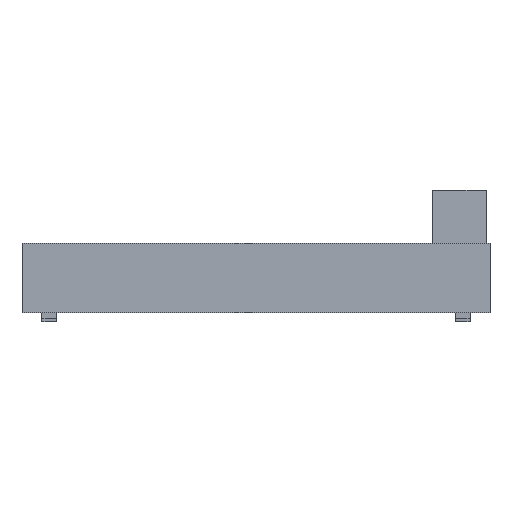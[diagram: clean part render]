
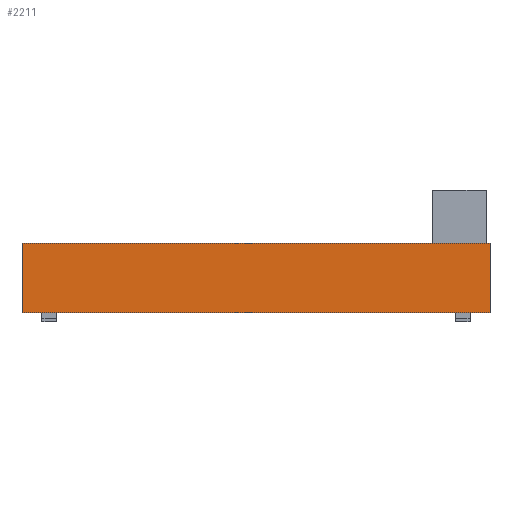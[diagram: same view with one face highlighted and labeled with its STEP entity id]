
A CAD part, front view. The second image highlights one B-rep face of the part: STEP entity #2211.
In plain terms, the highlighted planar face has unit normal (0, -1, 0).
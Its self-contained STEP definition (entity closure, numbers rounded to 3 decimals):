
#32 = PLANE('',#33);
#33 = AXIS2_PLACEMENT_3D('',#34,#35,#36);
#34 = CARTESIAN_POINT('',(20.15,-103.,201.));
#35 = DIRECTION('',(0.,0.,1.));
#36 = DIRECTION('',(1.,0.,0.));
#57 = VERTEX_POINT('',#58);
#58 = CARTESIAN_POINT('',(20.15,-103.,201.));
#72 = PLANE('',#73);
#73 = AXIS2_PLACEMENT_3D('',#74,#75,#76);
#74 = CARTESIAN_POINT('',(20.15,0.,197.249));
#75 = DIRECTION('',(-1.,-0.,-0.));
#76 = DIRECTION('',(0.,0.,-1.));
#84 = EDGE_CURVE('',#57,#85,#87,.T.);
#85 = VERTEX_POINT('',#86);
#86 = CARTESIAN_POINT('',(209.,-103.,201.));
#87 = SURFACE_CURVE('',#88,(#92,#99),.PCURVE_S1.);
#88 = LINE('',#89,#90);
#89 = CARTESIAN_POINT('',(20.15,-103.,201.));
#90 = VECTOR('',#91,1.);
#91 = DIRECTION('',(1.,0.,0.));
#92 = PCURVE('',#32,#93);
#93 = DEFINITIONAL_REPRESENTATION('',(#94),#98);
#94 = LINE('',#95,#96);
#95 = CARTESIAN_POINT('',(0.,0.));
#96 = VECTOR('',#97,1.);
#97 = DIRECTION('',(1.,0.));
#98 = ( GEOMETRIC_REPRESENTATION_CONTEXT(2) 
PARAMETRIC_REPRESENTATION_CONTEXT() REPRESENTATION_CONTEXT('2D SPACE',''
  ) );
#99 = PCURVE('',#100,#105);
#100 = PLANE('',#101);
#101 = AXIS2_PLACEMENT_3D('',#102,#103,#104);
#102 = CARTESIAN_POINT('',(114.575,-103.,187.));
#103 = DIRECTION('',(-0.,-1.,-0.));
#104 = DIRECTION('',(0.,0.,-1.));
#105 = DEFINITIONAL_REPRESENTATION('',(#106),#110);
#106 = LINE('',#107,#108);
#107 = CARTESIAN_POINT('',(-14.,-94.425));
#108 = VECTOR('',#109,1.);
#109 = DIRECTION('',(0.,1.));
#110 = ( GEOMETRIC_REPRESENTATION_CONTEXT(2) 
PARAMETRIC_REPRESENTATION_CONTEXT() REPRESENTATION_CONTEXT('2D SPACE',''
  ) );
#128 = PLANE('',#129);
#129 = AXIS2_PLACEMENT_3D('',#130,#131,#132);
#130 = CARTESIAN_POINT('',(209.,0.,187.));
#131 = DIRECTION('',(1.,0.,0.));
#132 = DIRECTION('',(0.,0.,1.));
#2070 = VERTEX_POINT('',#2071);
#2071 = CARTESIAN_POINT('',(20.15,-103.,173.));
#2085 = PLANE('',#2086);
#2086 = AXIS2_PLACEMENT_3D('',#2087,#2088,#2089);
#2087 = CARTESIAN_POINT('',(146.996,0.,173.));
#2088 = DIRECTION('',(-0.,-0.,-1.));
#2089 = DIRECTION('',(-1.,0.,0.));
#2097 = EDGE_CURVE('',#2070,#57,#2098,.T.);
#2098 = SURFACE_CURVE('',#2099,(#2103,#2110),.PCURVE_S1.);
#2099 = LINE('',#2100,#2101);
#2100 = CARTESIAN_POINT('',(20.15,-103.,173.));
#2101 = VECTOR('',#2102,1.);
#2102 = DIRECTION('',(0.,0.,1.));
#2103 = PCURVE('',#72,#2104);
#2104 = DEFINITIONAL_REPRESENTATION('',(#2105),#2109);
#2105 = LINE('',#2106,#2107);
#2106 = CARTESIAN_POINT('',(24.249,103.));
#2107 = VECTOR('',#2108,1.);
#2108 = DIRECTION('',(-1.,0.));
#2109 = ( GEOMETRIC_REPRESENTATION_CONTEXT(2) 
PARAMETRIC_REPRESENTATION_CONTEXT() REPRESENTATION_CONTEXT('2D SPACE',''
  ) );
#2110 = PCURVE('',#100,#2111);
#2111 = DEFINITIONAL_REPRESENTATION('',(#2112),#2116);
#2112 = LINE('',#2113,#2114);
#2113 = CARTESIAN_POINT('',(14.,-94.425));
#2114 = VECTOR('',#2115,1.);
#2115 = DIRECTION('',(-1.,0.));
#2116 = ( GEOMETRIC_REPRESENTATION_CONTEXT(2) 
PARAMETRIC_REPRESENTATION_CONTEXT() REPRESENTATION_CONTEXT('2D SPACE',''
  ) );
#2211 = ADVANCED_FACE('',(#2212),#100,.T.);
#2212 = FACE_BOUND('',#2213,.T.);
#2213 = EDGE_LOOP('',(#2214,#2215,#2216,#2239));
#2214 = ORIENTED_EDGE('',*,*,#84,.F.);
#2215 = ORIENTED_EDGE('',*,*,#2097,.F.);
#2216 = ORIENTED_EDGE('',*,*,#2217,.T.);
#2217 = EDGE_CURVE('',#2070,#2218,#2220,.T.);
#2218 = VERTEX_POINT('',#2219);
#2219 = CARTESIAN_POINT('',(209.,-103.,173.));
#2220 = SURFACE_CURVE('',#2221,(#2225,#2232),.PCURVE_S1.);
#2221 = LINE('',#2222,#2223);
#2222 = CARTESIAN_POINT('',(20.15,-103.,173.));
#2223 = VECTOR('',#2224,1.);
#2224 = DIRECTION('',(1.,0.,0.));
#2225 = PCURVE('',#100,#2226);
#2226 = DEFINITIONAL_REPRESENTATION('',(#2227),#2231);
#2227 = LINE('',#2228,#2229);
#2228 = CARTESIAN_POINT('',(14.,-94.425));
#2229 = VECTOR('',#2230,1.);
#2230 = DIRECTION('',(0.,1.));
#2231 = ( GEOMETRIC_REPRESENTATION_CONTEXT(2) 
PARAMETRIC_REPRESENTATION_CONTEXT() REPRESENTATION_CONTEXT('2D SPACE',''
  ) );
#2232 = PCURVE('',#2085,#2233);
#2233 = DEFINITIONAL_REPRESENTATION('',(#2234),#2238);
#2234 = LINE('',#2235,#2236);
#2235 = CARTESIAN_POINT('',(126.846,-103.));
#2236 = VECTOR('',#2237,1.);
#2237 = DIRECTION('',(-1.,0.));
#2238 = ( GEOMETRIC_REPRESENTATION_CONTEXT(2) 
PARAMETRIC_REPRESENTATION_CONTEXT() REPRESENTATION_CONTEXT('2D SPACE',''
  ) );
#2239 = ORIENTED_EDGE('',*,*,#2240,.T.);
#2240 = EDGE_CURVE('',#2218,#85,#2241,.T.);
#2241 = SURFACE_CURVE('',#2242,(#2246,#2253),.PCURVE_S1.);
#2242 = LINE('',#2243,#2244);
#2243 = CARTESIAN_POINT('',(209.,-103.,173.));
#2244 = VECTOR('',#2245,1.);
#2245 = DIRECTION('',(0.,0.,1.));
#2246 = PCURVE('',#100,#2247);
#2247 = DEFINITIONAL_REPRESENTATION('',(#2248),#2252);
#2248 = LINE('',#2249,#2250);
#2249 = CARTESIAN_POINT('',(14.,94.425));
#2250 = VECTOR('',#2251,1.);
#2251 = DIRECTION('',(-1.,0.));
#2252 = ( GEOMETRIC_REPRESENTATION_CONTEXT(2) 
PARAMETRIC_REPRESENTATION_CONTEXT() REPRESENTATION_CONTEXT('2D SPACE',''
  ) );
#2253 = PCURVE('',#128,#2254);
#2254 = DEFINITIONAL_REPRESENTATION('',(#2255),#2259);
#2255 = LINE('',#2256,#2257);
#2256 = CARTESIAN_POINT('',(-14.,103.));
#2257 = VECTOR('',#2258,1.);
#2258 = DIRECTION('',(1.,0.));
#2259 = ( GEOMETRIC_REPRESENTATION_CONTEXT(2) 
PARAMETRIC_REPRESENTATION_CONTEXT() REPRESENTATION_CONTEXT('2D SPACE',''
  ) );
